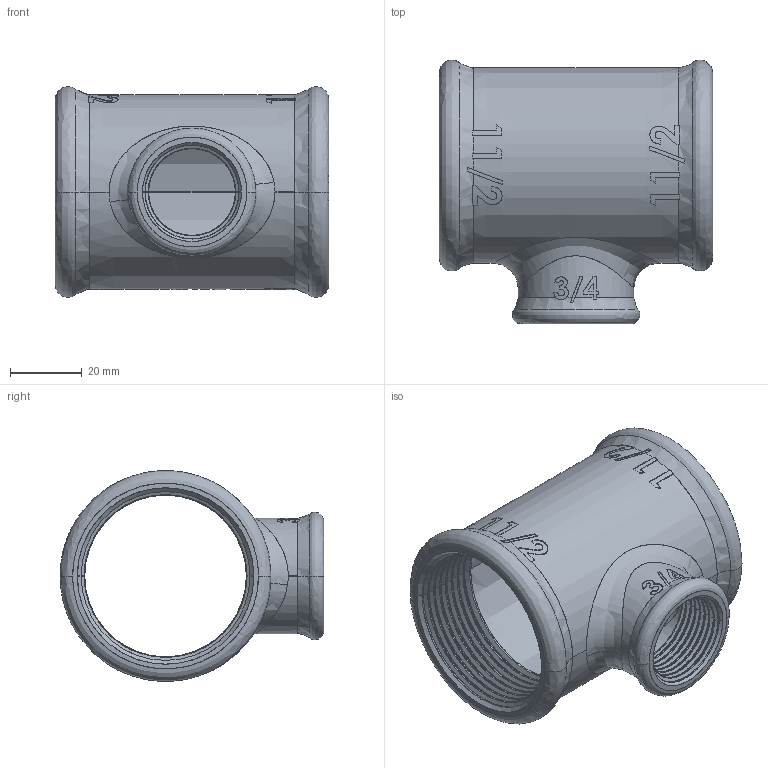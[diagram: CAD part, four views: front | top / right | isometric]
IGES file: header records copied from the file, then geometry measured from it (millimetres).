
Start section: SolidWorks IGES file using analytic representation for surfaces
Global section: file name: C:\Users\Joel Rosa\Desktop\Tubulação\12-45-XXX\12-45-040.IGS; native system: SolidWorks 2011; preprocessor: SolidWorks 2011; author: Joel Rosa; date: 121212.233918; units: millimetre
Bounding box: 76 x 73.3 x 58.6 mm (x, y, z)
Surface area: 32874.9 mm2 (no closed solid volume)
Topology: 0 solids, 0 shells, 458 faces, 4683 edges, 4683 vertices
Faces by surface type: bspline 323, revolution 135
